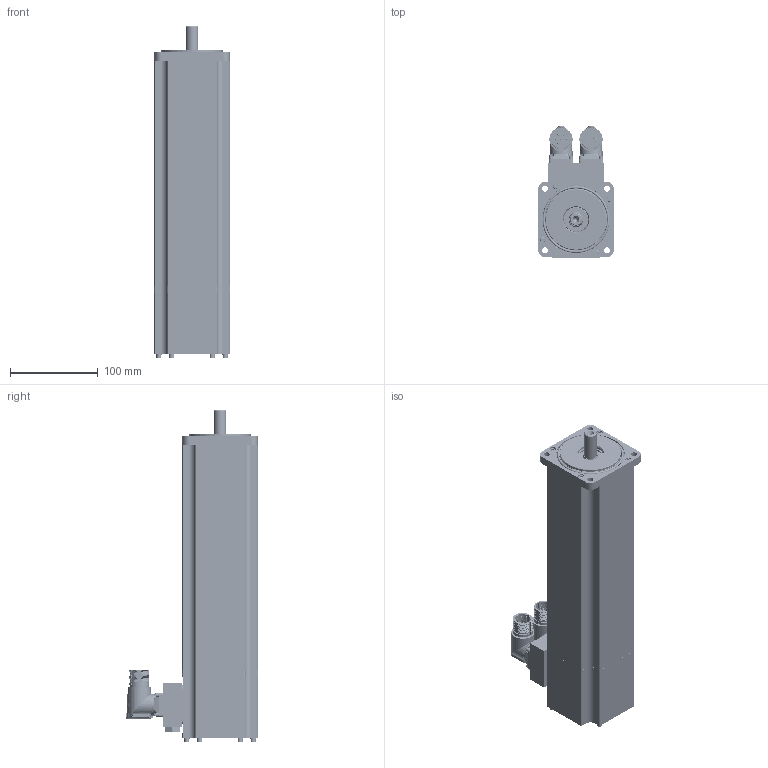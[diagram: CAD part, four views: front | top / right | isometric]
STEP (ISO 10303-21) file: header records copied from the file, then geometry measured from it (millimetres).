
FILE_DESCRIPTION (( 'STEP AP203' ), '1' );
FILE_NAME ('073710A.step', '2021-07-19T13:05:26', ( '' ), ( '' ), 'SwSTEP 2.0', 'SolidWorks 2019', '' );
FILE_SCHEMA (( 'CONFIG_CONTROL_DESIGN' ));
Products named in the file (1): 073710A
Bounding box: 86 x 149.91 x 379.19 mm (x, y, z)
Volume: 1894569.6 mm3; surface area: 597969.6 mm2
Topology: 227 solids, 229 shells, 11090 faces, 29049 edges, 18848 vertices
Faces by surface type: plane 4978, cylinder 3437, bspline 1412, cone 672, torus 507, sphere 84
Entity records: 596060 total; most frequent: CARTESIAN_POINT 335216, ORIENTED_EDGE 57498, DIRECTION 49137, EDGE_CURVE 28749, VERTEX_POINT 18768, AXIS2_PLACEMENT_3D 16554, LINE 16029, VECTOR 16029
